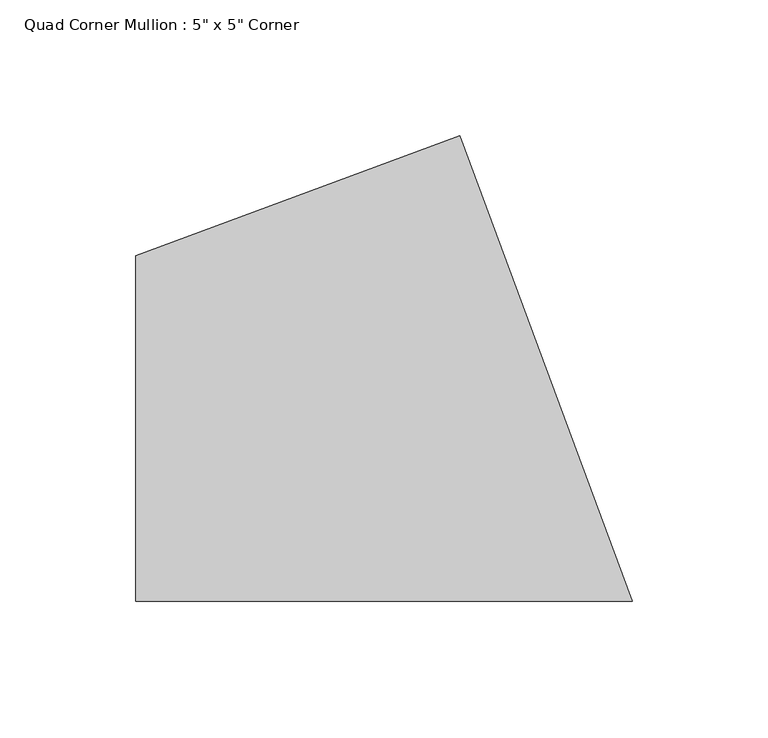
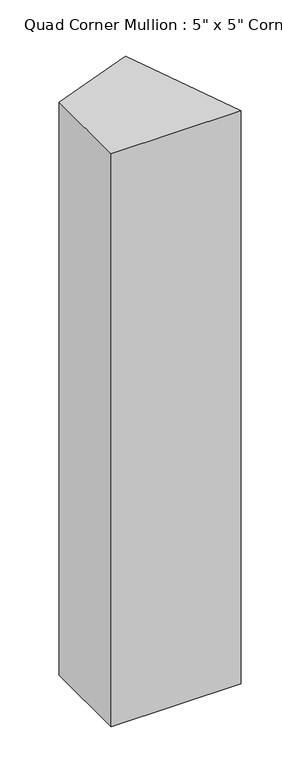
"""IFC4 building model written with IfcOpenShell, lengths in millimetres: member geometry."""

from ifc_helpers import new_model, si_unit, frame, origin, place, context, project, spatial, polyline, outline, extrude, source, transform, mapped, element, save


def member_f5abb35c(model_context):
    return source(origin(), model_context, "Body", "SweptSolid", [
        extrude(outline(polyline([(46.1433634, 94.8733827), (109.4458296, -76.2), (-72.9638864, -76.2), (-72.9638864, 50.8), (46.1433634, 94.8733827)])), frame((0.0, 0.0, -850.9), z_axis=(0.0, 0.0, 1.0), x_axis=(1.0, 0.0, 0.0)), (0.0, 0.0, 1.0), 850.9),
    ])


if __name__ == "__main__":
    model = new_model("IFC4")
    model_context = context("Model", 3, world=origin())
    ifc_project = project(units=[si_unit("LENGTHUNIT", "METRE", prefix="MILLI")], contexts=[model_context])
    site = spatial("IfcSite", under=ifc_project)
    building = spatial("IfcBuilding", under=site)
    placement = place(None, origin())
    member_shape = member_f5abb35c(model_context)
    element("IfcMember", 1, ObjectType="Quad Corner Mullion : 5\" x 5\" Corner", at=placement, inside=building, context=model_context, shape_type="MappedRepresentation", body=[
        mapped(member_shape, transform((0.0, 0.0, 0.0), x_axis=(1.0, 0.0, 0.0), y_axis=(0.0, 1.0, 0.0), z_axis=(0.0, 0.0, 1.0))),
    ])
    save(model, "model.ifc")
